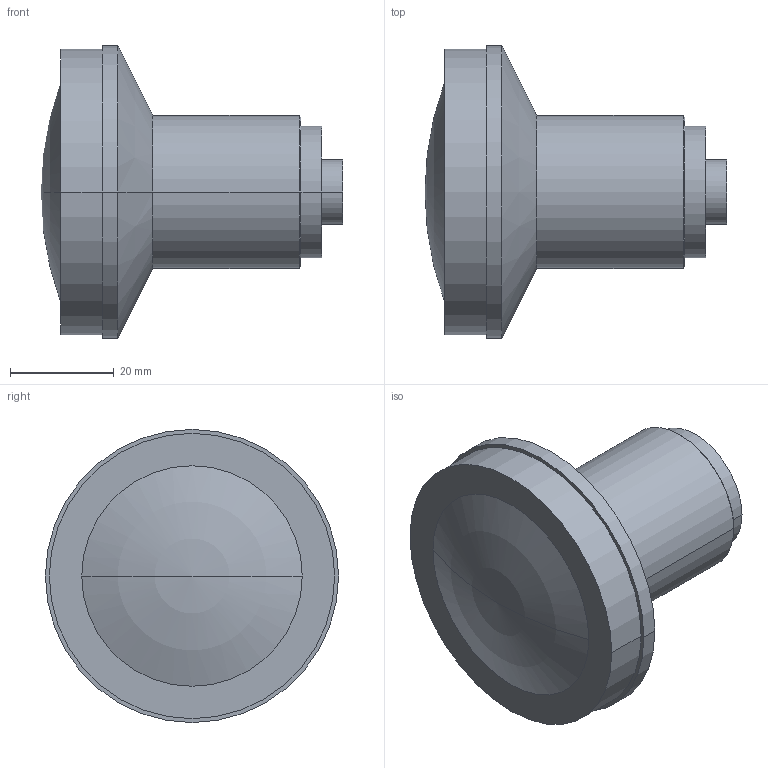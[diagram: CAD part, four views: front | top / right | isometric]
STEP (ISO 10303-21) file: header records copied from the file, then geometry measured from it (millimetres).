
FILE_DESCRIPTION(/* description */ ('VariCAD 2008 3.04 AP-203'),/* implementation_level */ '2;1');
FILE_NAME(/* name */ '0353-70-43',/* time_stamp */ '2009-04-25T12:00:25-06:00',/* author */ (''),/* organization */ (''),/* preprocessor_version */ 'ST-DEVELOPER v12',/* originating_system */ 'VariCAD 2008 3.04; kernel version (20080715)',/* authorisation */ '');
FILE_SCHEMA (('CONFIG_CONTROL_DESIGN'));
Length unit declared in the file: millimetre
Products named in the file (1): Part
Bounding box: 58.2 x 56.5 x 56.5 mm (x, y, z)
Volume: 61375.5 mm3; surface area: 10301.1 mm2
Topology: 1 solids, 1 shells, 21 faces, 42 edges, 25 vertices
Faces by surface type: cylinder 10, plane 5, cone 4, sphere 2
Entity records: 586 total; most frequent: DIRECTION 112, CARTESIAN_POINT 88, ORIENTED_EDGE 80, AXIS2_PLACEMENT_3D 49, EDGE_CURVE 40, CIRCLE 26, EDGE_LOOP 25, VERTEX_POINT 25
